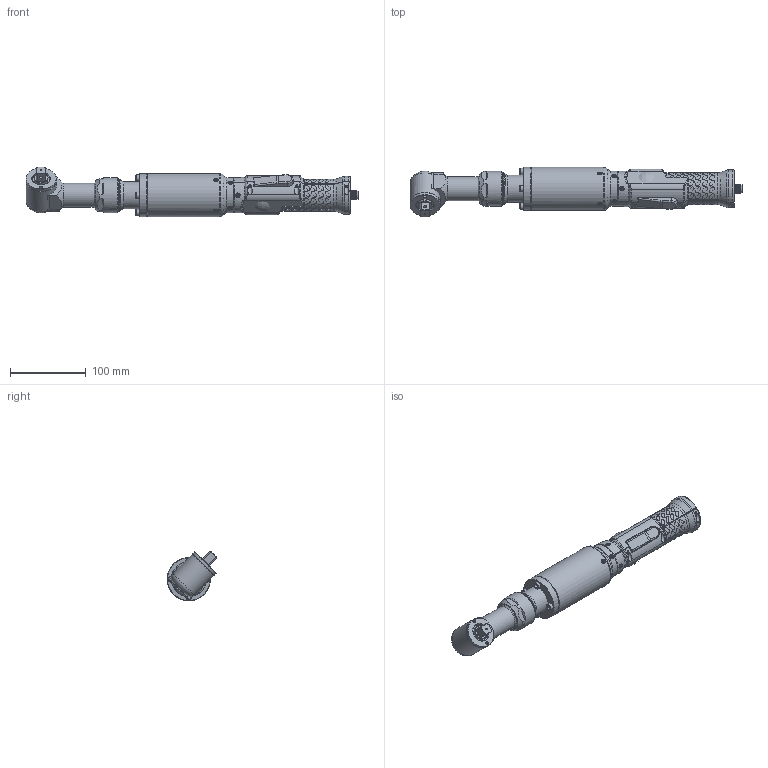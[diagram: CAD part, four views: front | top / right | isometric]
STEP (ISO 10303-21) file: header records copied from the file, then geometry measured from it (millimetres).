
FILE_DESCRIPTION (( 'STEP AP214' ), '1' );
FILE_NAME ('133271 PLUTO70ANG SCREWDRIVER 1-2'''' Plastica.STEP', '2026-04-16T09:38:28', ( '' ), ( '' ), 'SwSTEP 2.0', 'SolidWorks 2024', '' );
FILE_SCHEMA (( 'AUTOMOTIVE_DESIGN' ));
Length unit declared in the file: millimetre
Products named in the file (1): 133271  PLUTO70ANG SCREWDRIVER 1-2'''' Plastica
Bounding box: 439.3 x 65.57 x 65.57 mm (x, y, z)
Surface area: 91090.8 mm2 (no closed solid volume)
Topology: 0 solids, 46 shells, 892 faces, 2782 edges, 1871 vertices
Faces by surface type: bspline 320, cylinder 283, plane 182, cone 61, torus 43, sphere 3
Full cylindrical faces by diameter (mm): 1 x9, 3 x1, 4 x2, 4.2 x1, 5.5 x12, 6 x6, 7 x1, 8.3 x1, 8.4 x4, 9.5 x1, 16 x1, 18 x1, 24.2 x1, 32 x1, 35 x1, 35.5 x1, 36 x1, 40 x2, 46 x1, 47 x1, 57 x3
Entity records: 87011 total; most frequent: CARTESIAN_POINT 56971, ORIENTED_EDGE 4184, DIRECTION 3195, EDGE_CURVE 2596, VERTEX_POINT 1808, AXIS2_PLACEMENT_3D 1315, B_SPLINE_CURVE_WITH_KNOTS 1233, EDGE_LOOP 1131
